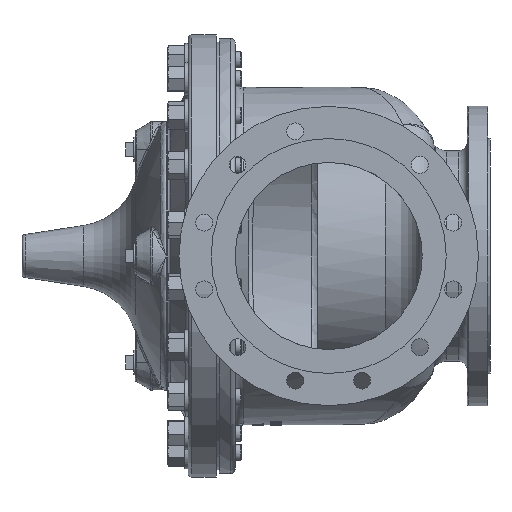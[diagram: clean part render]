
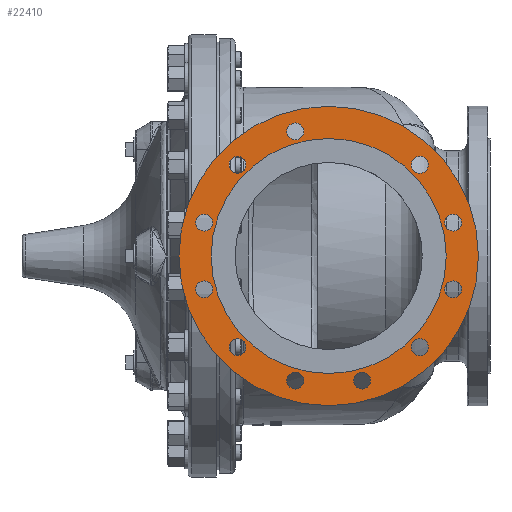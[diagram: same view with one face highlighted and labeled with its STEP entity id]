
A CAD part, left-side view. The second image highlights one B-rep face of the part: STEP entity #22410.
In plain terms, the highlighted planar face has unit normal (-1, 0, 0).
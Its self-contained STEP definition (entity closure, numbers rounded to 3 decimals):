
#1277=FACE_BOUND('',#4861,.T.);
#1278=FACE_BOUND('',#4862,.T.);
#1279=FACE_BOUND('',#4863,.T.);
#1280=FACE_BOUND('',#4864,.T.);
#1281=FACE_BOUND('',#4865,.T.);
#1282=FACE_BOUND('',#4866,.T.);
#1283=FACE_BOUND('',#4867,.T.);
#1284=FACE_BOUND('',#4868,.T.);
#1285=FACE_BOUND('',#4869,.T.);
#1286=FACE_BOUND('',#4870,.T.);
#1287=FACE_BOUND('',#4871,.T.);
#1288=FACE_BOUND('',#4872,.T.);
#1426=PLANE('',#23996);
#3316=FACE_OUTER_BOUND('',#4860,.T.);
#4860=EDGE_LOOP('',(#15035));
#4861=EDGE_LOOP('',(#15036));
#4862=EDGE_LOOP('',(#15037));
#4863=EDGE_LOOP('',(#15038));
#4864=EDGE_LOOP('',(#15039));
#4865=EDGE_LOOP('',(#15040));
#4866=EDGE_LOOP('',(#15041));
#4867=EDGE_LOOP('',(#15042));
#4868=EDGE_LOOP('',(#15043));
#4869=EDGE_LOOP('',(#15044));
#4870=EDGE_LOOP('',(#15045));
#4871=EDGE_LOOP('',(#15046));
#4872=EDGE_LOOP('',(#15047));
#6561=CIRCLE('',#23997,203.2);
#6562=CIRCLE('',#23998,159.5);
#6563=CIRCLE('',#23999,11.5);
#6564=CIRCLE('',#24000,11.5);
#6565=CIRCLE('',#24001,11.5);
#6566=CIRCLE('',#24002,11.5);
#6567=CIRCLE('',#24003,11.5);
#6568=CIRCLE('',#24004,11.5);
#6569=CIRCLE('',#24005,11.5);
#6570=CIRCLE('',#24006,11.5);
#6571=CIRCLE('',#24007,11.5);
#6572=CIRCLE('',#24008,11.5);
#6573=CIRCLE('',#24009,11.5);
#9103=VERTEX_POINT('',#33678);
#9104=VERTEX_POINT('',#33680);
#9105=VERTEX_POINT('',#33682);
#9106=VERTEX_POINT('',#33684);
#9107=VERTEX_POINT('',#33686);
#9108=VERTEX_POINT('',#33688);
#9109=VERTEX_POINT('',#33690);
#9110=VERTEX_POINT('',#33692);
#9111=VERTEX_POINT('',#33694);
#9112=VERTEX_POINT('',#33696);
#9113=VERTEX_POINT('',#33698);
#9114=VERTEX_POINT('',#33700);
#9115=VERTEX_POINT('',#33702);
#11375=EDGE_CURVE('',#9103,#9103,#6561,.T.);
#11376=EDGE_CURVE('',#9104,#9104,#6562,.T.);
#11377=EDGE_CURVE('',#9105,#9105,#6563,.T.);
#11378=EDGE_CURVE('',#9106,#9106,#6564,.T.);
#11379=EDGE_CURVE('',#9107,#9107,#6565,.T.);
#11380=EDGE_CURVE('',#9108,#9108,#6566,.T.);
#11381=EDGE_CURVE('',#9109,#9109,#6567,.T.);
#11382=EDGE_CURVE('',#9110,#9110,#6568,.T.);
#11383=EDGE_CURVE('',#9111,#9111,#6569,.T.);
#11384=EDGE_CURVE('',#9112,#9112,#6570,.T.);
#11385=EDGE_CURVE('',#9113,#9113,#6571,.T.);
#11386=EDGE_CURVE('',#9114,#9114,#6572,.T.);
#11387=EDGE_CURVE('',#9115,#9115,#6573,.T.);
#15035=ORIENTED_EDGE('',*,*,#11375,.F.);
#15036=ORIENTED_EDGE('',*,*,#11376,.F.);
#15037=ORIENTED_EDGE('',*,*,#11377,.T.);
#15038=ORIENTED_EDGE('',*,*,#11378,.T.);
#15039=ORIENTED_EDGE('',*,*,#11379,.T.);
#15040=ORIENTED_EDGE('',*,*,#11380,.T.);
#15041=ORIENTED_EDGE('',*,*,#11381,.T.);
#15042=ORIENTED_EDGE('',*,*,#11382,.T.);
#15043=ORIENTED_EDGE('',*,*,#11383,.T.);
#15044=ORIENTED_EDGE('',*,*,#11384,.T.);
#15045=ORIENTED_EDGE('',*,*,#11385,.T.);
#15046=ORIENTED_EDGE('',*,*,#11386,.T.);
#15047=ORIENTED_EDGE('',*,*,#11387,.T.);
#22410=ADVANCED_FACE('',(#3316,#1277,#1278,#1279,#1280,#1281,#1282,#1283,
#1284,#1285,#1286,#1287,#1288),#1426,.F.);
#23996=AXIS2_PLACEMENT_3D('',#33677,#26852,#26853);
#23997=AXIS2_PLACEMENT_3D('',#33679,#26854,#26855);
#23998=AXIS2_PLACEMENT_3D('',#33681,#26856,#26857);
#23999=AXIS2_PLACEMENT_3D('',#33683,#26858,#26859);
#24000=AXIS2_PLACEMENT_3D('',#33685,#26860,#26861);
#24001=AXIS2_PLACEMENT_3D('',#33687,#26862,#26863);
#24002=AXIS2_PLACEMENT_3D('',#33689,#26864,#26865);
#24003=AXIS2_PLACEMENT_3D('',#33691,#26866,#26867);
#24004=AXIS2_PLACEMENT_3D('',#33693,#26868,#26869);
#24005=AXIS2_PLACEMENT_3D('',#33695,#26870,#26871);
#24006=AXIS2_PLACEMENT_3D('',#33697,#26872,#26873);
#24007=AXIS2_PLACEMENT_3D('',#33699,#26874,#26875);
#24008=AXIS2_PLACEMENT_3D('',#33701,#26876,#26877);
#24009=AXIS2_PLACEMENT_3D('',#33703,#26878,#26879);
#26852=DIRECTION('center_axis',(1.,0.,0.));
#26853=DIRECTION('ref_axis',(0.,1.,0.));
#26854=DIRECTION('center_axis',(1.,0.,0.));
#26855=DIRECTION('ref_axis',(0.,1.,0.));
#26856=DIRECTION('center_axis',(-1.,0.,0.));
#26857=DIRECTION('ref_axis',(0.,1.,0.));
#26858=DIRECTION('center_axis',(1.,0.,0.));
#26859=DIRECTION('ref_axis',(0.,-1.,0.));
#26860=DIRECTION('center_axis',(1.,0.,0.));
#26861=DIRECTION('ref_axis',(0.,-0.5,-0.866));
#26862=DIRECTION('center_axis',(1.,0.,0.));
#26863=DIRECTION('ref_axis',(0.,0.,
-1.));
#26864=DIRECTION('center_axis',(1.,0.,0.));
#26865=DIRECTION('ref_axis',(0.,0.5,-0.866));
#26866=DIRECTION('center_axis',(1.,0.,0.));
#26867=DIRECTION('ref_axis',(0.,0.866,-0.5));
#26868=DIRECTION('center_axis',(1.,0.,0.));
#26869=DIRECTION('ref_axis',(0.,1.,0.));
#26870=DIRECTION('center_axis',(1.,0.,0.));
#26871=DIRECTION('ref_axis',(0.,0.866,0.5));
#26872=DIRECTION('center_axis',(1.,0.,0.));
#26873=DIRECTION('ref_axis',(0.,0.5,0.866));
#26874=DIRECTION('center_axis',(1.,0.,0.));
#26875=DIRECTION('ref_axis',(0.,0.,
1.));
#26876=DIRECTION('center_axis',(1.,0.,0.));
#26877=DIRECTION('ref_axis',(0.,-0.5,0.866));
#26878=DIRECTION('center_axis',(1.,0.,0.));
#26879=DIRECTION('ref_axis',(0.,-0.866,0.5));
#33677=CARTESIAN_POINT('Origin',(-374.95,-416.277,0.));
#33678=CARTESIAN_POINT('',(-374.95,-619.477,0.));
#33679=CARTESIAN_POINT('Origin',(-374.95,-416.277,0.));
#33680=CARTESIAN_POINT('',(-374.95,-575.777,0.));
#33681=CARTESIAN_POINT('Origin',(-374.95,-416.277,0.));
#33682=CARTESIAN_POINT('',(-374.95,-359.484,169.037));
#33683=CARTESIAN_POINT('Origin',(-374.95,-370.984,169.037));
#33684=CARTESIAN_POINT('',(-374.95,-534.271,133.703));
#33685=CARTESIAN_POINT('Origin',(-374.95,-540.021,123.744));
#33686=CARTESIAN_POINT('',(-374.95,-585.314,56.793));
#33687=CARTESIAN_POINT('Origin',(-374.95,-585.314,45.293));
#33688=CARTESIAN_POINT('',(-374.95,-591.064,-35.334));
#33689=CARTESIAN_POINT('Origin',(-374.95,-585.314,-45.293));
#33690=CARTESIAN_POINT('',(-374.95,-549.98,-117.994));
#33691=CARTESIAN_POINT('Origin',(-374.95,-540.021,-123.744));
#33692=CARTESIAN_POINT('',(-374.95,-473.07,-169.037));
#33693=CARTESIAN_POINT('Origin',(-374.95,-461.57,-169.037));
#33694=CARTESIAN_POINT('',(-374.95,-380.943,-174.787));
#33695=CARTESIAN_POINT('Origin',(-374.95,-370.984,-169.037));
#33696=CARTESIAN_POINT('',(-374.95,-298.283,-133.703));
#33697=CARTESIAN_POINT('Origin',(-374.95,-292.533,-123.744));
#33698=CARTESIAN_POINT('',(-374.95,-247.24,-56.793));
#33699=CARTESIAN_POINT('Origin',(-374.95,-247.24,-45.293));
#33700=CARTESIAN_POINT('',(-374.95,-241.49,35.334));
#33701=CARTESIAN_POINT('Origin',(-374.95,-247.24,45.293));
#33702=CARTESIAN_POINT('',(-374.95,-282.574,117.994));
#33703=CARTESIAN_POINT('Origin',(-374.95,-292.533,123.744));
